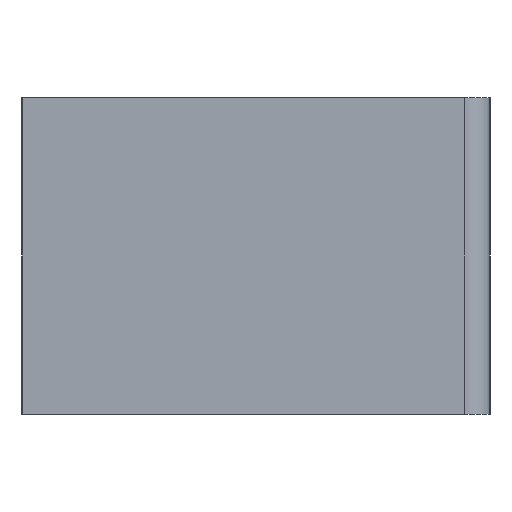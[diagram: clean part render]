
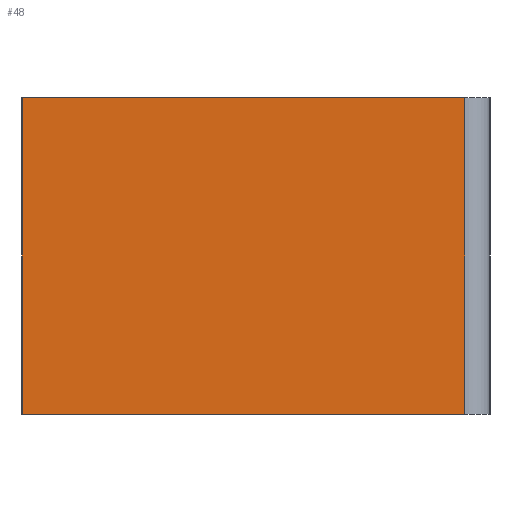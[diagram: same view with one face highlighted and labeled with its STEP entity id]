
A CAD part, left-side view. The second image highlights one B-rep face of the part: STEP entity #48.
In plain terms, the highlighted planar face has unit normal (-1, 0, 0).
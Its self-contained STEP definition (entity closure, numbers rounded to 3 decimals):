
#48 = ADVANCED_FACE( '', ( #103 ), #104, .F. );
#103 = FACE_OUTER_BOUND( '', #162, .T. );
#104 = PLANE( '', #163 );
#162 = EDGE_LOOP( '', ( #235, #236, #237, #238 ) );
#163 = AXIS2_PLACEMENT_3D( '', #239, #240, #241 );
#235 = ORIENTED_EDGE( '', *, *, #353, .T. );
#236 = ORIENTED_EDGE( '', *, *, #354, .F. );
#237 = ORIENTED_EDGE( '', *, *, #341, .F. );
#238 = ORIENTED_EDGE( '', *, *, #337, .T. );
#239 = CARTESIAN_POINT( '', ( -6.5, 0., 12.5 ) );
#240 = DIRECTION( '', ( 1., 0., 0. ) );
#241 = DIRECTION( '', ( 0., 0., -1. ) );
#337 = EDGE_CURVE( '', #391, #389, #392, .T. );
#341 = EDGE_CURVE( '', #391, #397, #398, .T. );
#353 = EDGE_CURVE( '', #389, #418, #419, .T. );
#354 = EDGE_CURVE( '', #397, #418, #420, .T. );
#389 = VERTEX_POINT( '', #463 );
#391 = VERTEX_POINT( '', #466 );
#392 = LINE( '', #467, #468 );
#397 = VERTEX_POINT( '', #475 );
#398 = LINE( '', #476, #477 );
#418 = VERTEX_POINT( '', #503 );
#419 = LINE( '', #504, #505 );
#420 = LINE( '', #506, #507 );
#463 = CARTESIAN_POINT( '', ( -6.5, 0., -12.5 ) );
#466 = CARTESIAN_POINT( '', ( -6.5, 0., 12.5 ) );
#467 = CARTESIAN_POINT( '', ( -6.5, 0., 12.5 ) );
#468 = VECTOR( '', #563, 1000. );
#475 = CARTESIAN_POINT( '', ( -6.5, -35., 12.5 ) );
#476 = CARTESIAN_POINT( '', ( -6.5, 0., 12.5 ) );
#477 = VECTOR( '', #566, 1000. );
#503 = CARTESIAN_POINT( '', ( -6.5, -35., -12.5 ) );
#504 = CARTESIAN_POINT( '', ( -6.5, 0., -12.5 ) );
#505 = VECTOR( '', #582, 1000. );
#506 = CARTESIAN_POINT( '', ( -6.5, -35., 12.5 ) );
#507 = VECTOR( '', #583, 1000. );
#563 = DIRECTION( '', ( 0., 0., -1. ) );
#566 = DIRECTION( '', ( 0., -1., 0. ) );
#582 = DIRECTION( '', ( 0., -1., 0. ) );
#583 = DIRECTION( '', ( 0., 0., -1. ) );
